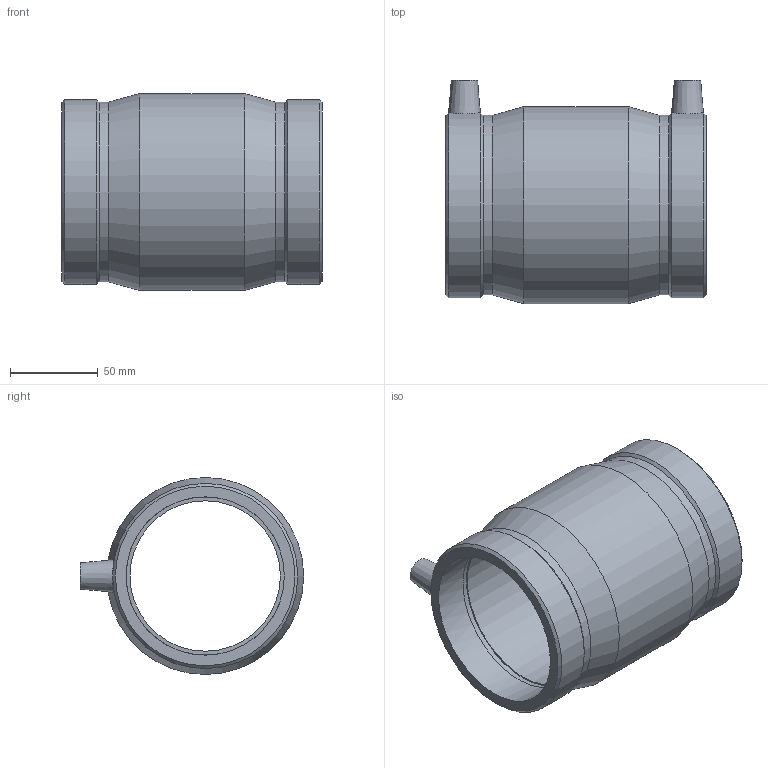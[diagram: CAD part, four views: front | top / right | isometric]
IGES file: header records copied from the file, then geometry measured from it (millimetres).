
Global section: file name: 490104090.ipt; native system: Autodesk Inventor 2015; preprocessor: unknown; author: KIM; date: 20171106.093547; units: millimetre
Bounding box: 148 x 127 x 112 mm (x, y, z)
Volume: 425190.1 mm3; surface area: 101725.4 mm2
Topology: 1 solids, 1 shells, 38 faces, 86 edges, 58 vertices
Faces by surface type: plane 12, cone 10, revolution 9, cylinder 7
Full cylindrical faces by diameter (mm): 4 x2, 102.122 x2, 112 x1
